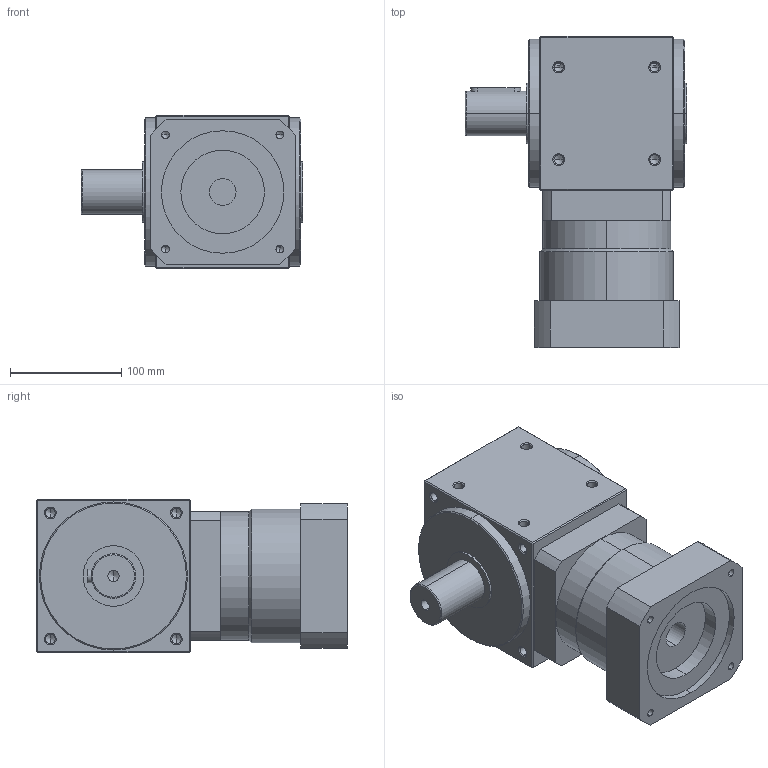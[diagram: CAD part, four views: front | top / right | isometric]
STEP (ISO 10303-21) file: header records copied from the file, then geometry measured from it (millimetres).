
FILE_DESCRIPTION (( 'STEP AP214' ), '1' );
FILE_NAME ('AAW135AS-L1-2P 24-110-145-M8.STEP', '2020-11-27T03:19:51', ( '微软用户' ), ( '微软中国' ), 'SwSTEP 2.0', 'SolidWorks 2014', '' );
FILE_SCHEMA (( 'AUTOMOTIVE_DESIGN' ));
Length unit declared in the file: millimetre
Products named in the file (2): AAW135AS-L1-2P 24-110-145-M8
Bounding box: 199 x 279 x 138 mm (x, y, z)
Volume: 4304400.5 mm3; surface area: 240673.4 mm2
Topology: 2 solids, 2 shells, 233 faces, 556 edges, 305 vertices
Faces by surface type: cone 96, cylinder 82, plane 53, torus 2
Entity records: 9103 total; most frequent: CARTESIAN_POINT 1244, DIRECTION 1186, ORIENTED_EDGE 1012, EDGE_CURVE 506, AXIS2_PLACEMENT_3D 463, VERTEX_POINT 305, EDGE_LOOP 269, LINE 260
